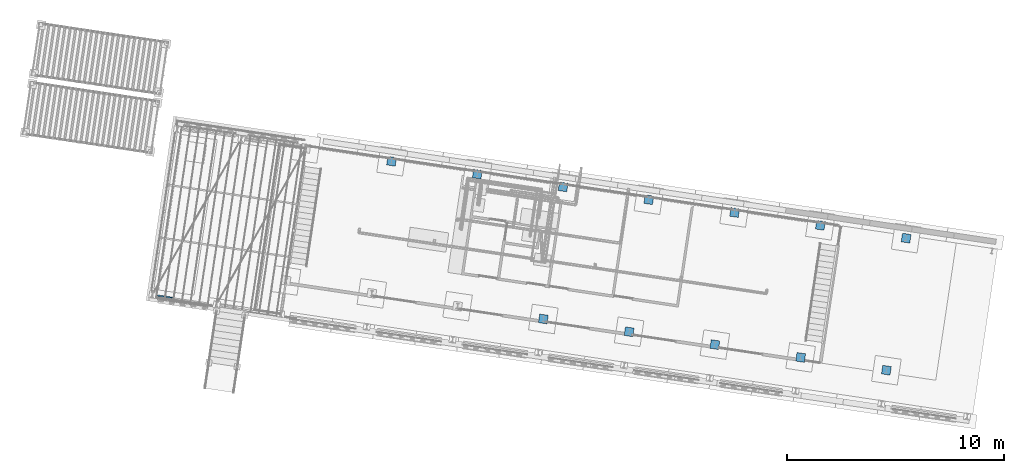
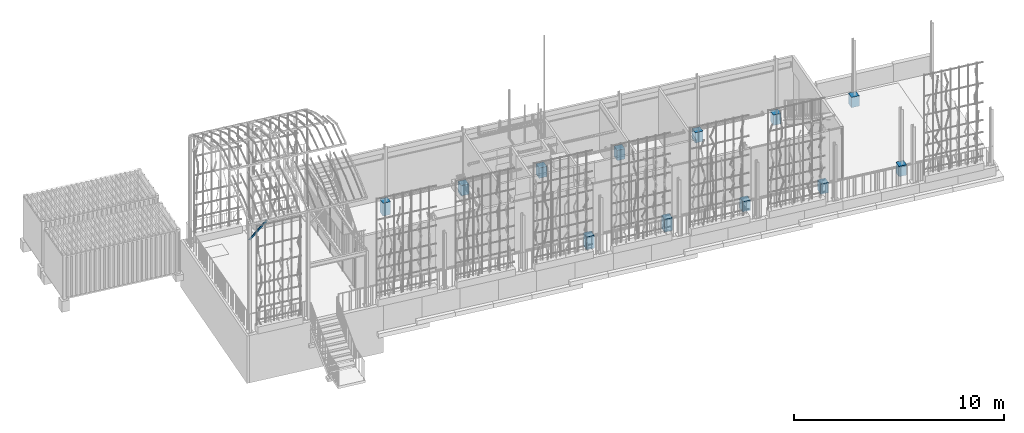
# One storey, part 6 of 142: 12 columns, 1 member, 1 element without a shape of its own.
"""IFC4 building model written with IfcOpenShell, lengths in metres."""

from ifc_helpers import new_model, si_unit, direction, frame, origin_with_axes, place, context, subcontext, project, spatial, polyline, hollow_rectangle, outline, extrude, material, material_profile, profile_set, profile_usage, type_object, element, aggregate, save


model = new_model("IFC4")

# Units and contexts
model_context = context("Model", 3, precision=1e-05, world=origin_with_axes(), true_north=direction((0.0, 1.0)))
body_context = subcontext(model_context, "Body", "Model", "MODEL_VIEW")
ifc_project = project(units=[si_unit("VOLUMEUNIT", "CUBIC_METRE"), si_unit("LENGTHUNIT", "METRE"), si_unit("AREAUNIT", "SQUARE_METRE")], contexts=[model_context])

# Site, building, storey
site_placement = place(None, origin_with_axes())
site = spatial("IfcSite", under=ifc_project, at=site_placement, Name="Lares · Rua das Mercês · artigo 4771")
building_placement = place(site_placement, frame((12.0, 10.2, 13.9), z_axis=(0.0, 0.0, 1.0), x_axis=(0.989015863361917, -0.147809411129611, 0.0)))
building = spatial("IfcBuilding", under=site, at=building_placement, Name="Casa Sobreposta")
storey_placement = place(building_placement, origin_with_axes())
storey = spatial("IfcBuildingStorey", under=building, at=storey_placement, Name="00 · Habitação e estacionamento", Elevation=13.9)

# Columns
ifc_material_1 = material(Name="Betão armado / Stahlbeton", Category="concrete")
column_1_placement = place(storey_placement, frame((0.0, 0.0, -0.75), z_axis=(0.0, 0.0, 1.0), x_axis=(1.0, 0.0, 0.0)))
element("IfcColumn", 1, at=column_1_placement, inside=storey, material=ifc_material_1, Name="Pedestal 2B · betão 400 x 400", context=body_context, shape_type="SweptSolid", body=[
    extrude(outline(polyline([(4.2, 6.08), (4.2, 6.48), (3.8, 6.48), (3.8, 6.08), (4.2, 6.08)])), origin_with_axes(), (0.0, 0.0, 1.0), 0.75),
])
column_2_placement = place(storey_placement, frame((0.0, 0.0, -0.6), z_axis=(0.0, 0.0, 1.0), x_axis=(1.0, 0.0, 0.0)))
element("IfcColumn", 2, at=column_2_placement, inside=storey, material=ifc_material_1, Name="Pedestal 3B · betão 400 x 400", context=body_context, shape_type="SweptSolid", body=[
    extrude(outline(polyline([(8.2, 6.08), (8.2, 6.48), (7.8, 6.48), (7.8, 6.08), (8.2, 6.08)])), origin_with_axes(), (0.0, 0.0, 1.0), 0.6),
])
column_3_placement = place(storey_placement, frame((0.0, 0.0, -0.75), z_axis=(0.0, 0.0, 1.0), x_axis=(1.0, 0.0, 0.0)))
element("IfcColumn", 3, at=column_3_placement, inside=storey, material=ifc_material_1, Name="Pedestal 4A · betão 400 x 400", context=body_context, shape_type="SweptSolid", body=[
    extrude(outline(polyline([(12.2, -0.08), (12.2, 0.32), (11.8, 0.32), (11.8, -0.08), (12.2, -0.08)])), origin_with_axes(), (0.0, 0.0, 1.0), 0.75),
])
column_4_placement = place(storey_placement, frame((0.0, 0.0, -0.6), z_axis=(0.0, 0.0, 1.0), x_axis=(1.0, 0.0, 0.0)))
element("IfcColumn", 4, at=column_4_placement, inside=storey, material=ifc_material_1, Name="Pedestal 4B · betão 400 x 400", context=body_context, shape_type="SweptSolid", body=[
    extrude(outline(polyline([(12.2, 6.08), (12.2, 6.48), (11.8, 6.48), (11.8, 6.08), (12.2, 6.08)])), origin_with_axes(), (0.0, 0.0, 1.0), 0.6),
])
column_5_placement = place(storey_placement, frame((0.0, 0.0, -0.75), z_axis=(0.0, 0.0, 1.0), x_axis=(1.0, 0.0, 0.0)))
element("IfcColumn", 5, at=column_5_placement, inside=storey, material=ifc_material_1, Name="Pedestal 5A · betão 400 x 400", context=body_context, shape_type="SweptSolid", body=[
    extrude(outline(polyline([(16.2, -0.08), (16.2, 0.32), (15.8, 0.32), (15.8, -0.08), (16.2, -0.08)])), origin_with_axes(), (0.0, 0.0, 1.0), 0.75),
])
column_6_placement = place(storey_placement, frame((0.0, 0.0, -0.6), z_axis=(0.0, 0.0, 1.0), x_axis=(1.0, 0.0, 0.0)))
element("IfcColumn", 6, at=column_6_placement, inside=storey, material=ifc_material_1, Name="Pedestal 5B · betão 400 x 400", context=body_context, shape_type="SweptSolid", body=[
    extrude(outline(polyline([(16.2, 6.08), (16.2, 6.48), (15.8, 6.48), (15.8, 6.08), (16.2, 6.08)])), origin_with_axes(), (0.0, 0.0, 1.0), 0.6),
])
column_7_placement = place(storey_placement, frame((0.0, 0.0, -0.6), z_axis=(0.0, 0.0, 1.0), x_axis=(1.0, 0.0, 0.0)))
element("IfcColumn", 7, at=column_7_placement, inside=storey, material=ifc_material_1, Name="Pedestal 6A · betão 400 x 400", context=body_context, shape_type="SweptSolid", body=[
    extrude(outline(polyline([(20.2, -0.08), (20.2, 0.32), (19.8, 0.32), (19.8, -0.08), (20.2, -0.08)])), origin_with_axes(), (0.0, 0.0, 1.0), 0.6),
])
column_8_placement = place(storey_placement, frame((0.0, 0.0, -0.6), z_axis=(0.0, 0.0, 1.0), x_axis=(1.0, 0.0, 0.0)))
element("IfcColumn", 8, at=column_8_placement, inside=storey, material=ifc_material_1, Name="Pedestal 6B · betão 400 x 400", context=body_context, shape_type="SweptSolid", body=[
    extrude(outline(polyline([(20.2, 6.08), (20.2, 6.48), (19.8, 6.48), (19.8, 6.08), (20.2, 6.08)])), origin_with_axes(), (0.0, 0.0, 1.0), 0.6),
])
column_9_placement = place(storey_placement, frame((0.0, 0.0, -0.6), z_axis=(0.0, 0.0, 1.0), x_axis=(1.0, 0.0, 0.0)))
element("IfcColumn", 9, at=column_9_placement, inside=storey, material=ifc_material_1, Name="Pedestal 7A · betão 400 x 400", context=body_context, shape_type="SweptSolid", body=[
    extrude(outline(polyline([(24.2, -0.08), (24.2, 0.32), (23.8, 0.32), (23.8, -0.08), (24.2, -0.08)])), origin_with_axes(), (0.0, 0.0, 1.0), 0.6),
])
column_10_placement = place(storey_placement, frame((0.0, 0.0, -0.6), z_axis=(0.0, 0.0, 1.0), x_axis=(1.0, 0.0, 0.0)))
element("IfcColumn", 10, at=column_10_placement, inside=storey, material=ifc_material_1, Name="Pedestal 7B · betão 400 x 400", context=body_context, shape_type="SweptSolid", body=[
    extrude(outline(polyline([(24.2, 6.08), (24.2, 6.48), (23.8, 6.48), (23.8, 6.08), (24.2, 6.08)])), origin_with_axes(), (0.0, 0.0, 1.0), 0.6),
])
column_11_placement = place(storey_placement, frame((0.0, 0.0, -0.6), z_axis=(0.0, 0.0, 1.0), x_axis=(1.0, 0.0, 0.0)))
element("IfcColumn", 11, at=column_11_placement, inside=storey, material=ifc_material_1, Name="Pedestal 8A · betão 400 x 400", context=body_context, shape_type="SweptSolid", body=[
    extrude(outline(polyline([(28.2, -0.08), (28.2, 0.32), (27.8, 0.32), (27.8, -0.08), (28.2, -0.08)])), origin_with_axes(), (0.0, 0.0, 1.0), 0.6),
])
column_12_placement = place(storey_placement, frame((0.0, 0.0, -0.6), z_axis=(0.0, 0.0, 1.0), x_axis=(1.0, 0.0, 0.0)))
element("IfcColumn", 12, at=column_12_placement, inside=storey, material=ifc_material_1, Name="Pedestal 8B · betão 400 x 400", context=body_context, shape_type="SweptSolid", body=[
    extrude(outline(polyline([(28.2, 6.08), (28.2, 6.48), (27.8, 6.48), (27.8, 6.08), (28.2, 6.08)])), origin_with_axes(), (0.0, 0.0, 1.0), 0.6),
])

# Assembly, member
assembly_placement = place(storey_placement, origin_with_axes())
assembly = element("IfcElementAssembly", 13, at=assembly_placement, inside=storey, Name="Pérgola · prolongamento da estufa 6 m", ObjectType="PERGOLA_GREENHOUSE_EXTENSION", PredefinedType="USERDEFINED")
ifc_material_2 = material(Name="Aço pintado / Stahl lackiert", Category="steel")
ifc_material_profile = material_profile(ifc_material_2, hollow_rectangle(XDim=0.06, YDim=0.08, WallThickness=0.004))
ifc_profile_set = profile_set([ifc_material_profile], Name="RHS80x60x4")
ifc_profile_usage = profile_usage(ifc_profile_set)
member_type = type_object("IfcMemberType", Name="RHS80x60x4 / steel", PredefinedType="NOTDEFINED", material=ifc_profile_set)
member_placement = place(assembly_placement, frame((-6.0, -1.44, 5.3), z_axis=(0.699294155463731, 0.0, 0.714834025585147), x_axis=(0.0, -1.0, 0.0)))
member = element("IfcMember", 14, at=member_placement, type_object=member_type, material=ifc_profile_usage, Name="Pérgola · escora alta", context=body_context, shape_type="SweptSolid", body=[
    extrude(hollow_rectangle(XDim=0.06, YDim=0.08, WallThickness=0.004), origin_with_axes(), (0.0, 0.0, 1.0), 1.28701204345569),
])
aggregate(assembly, [member])

save(model, "model.ifc")
